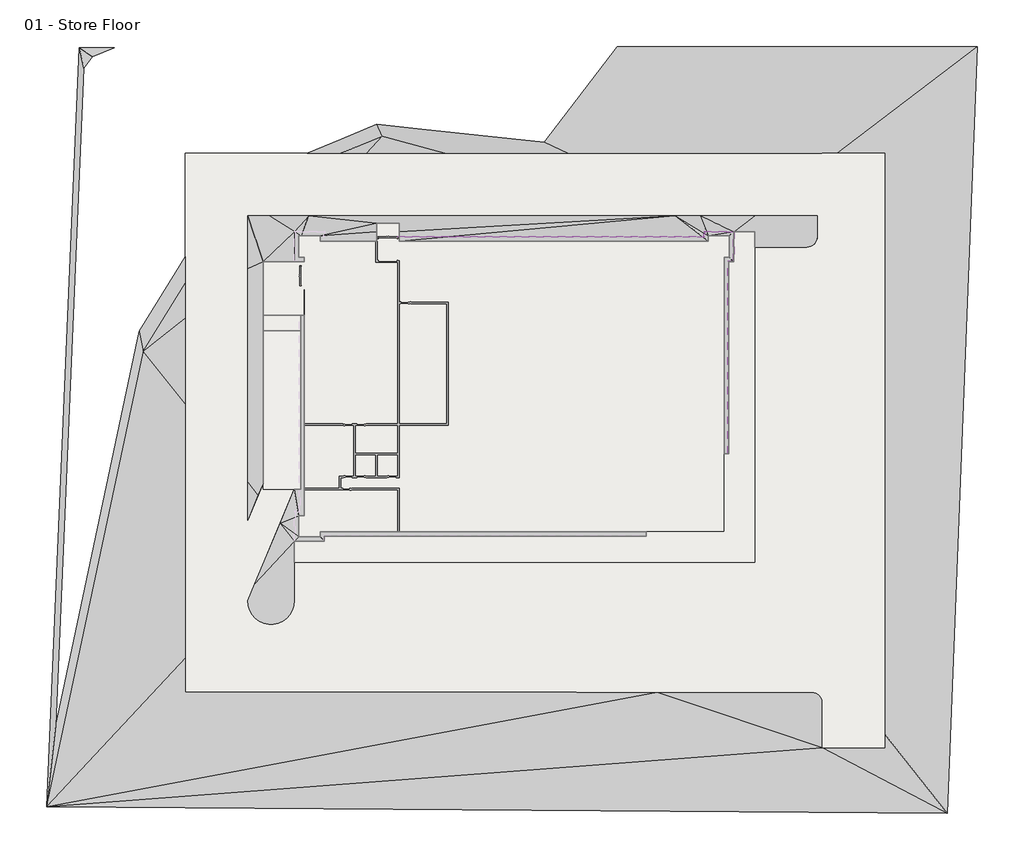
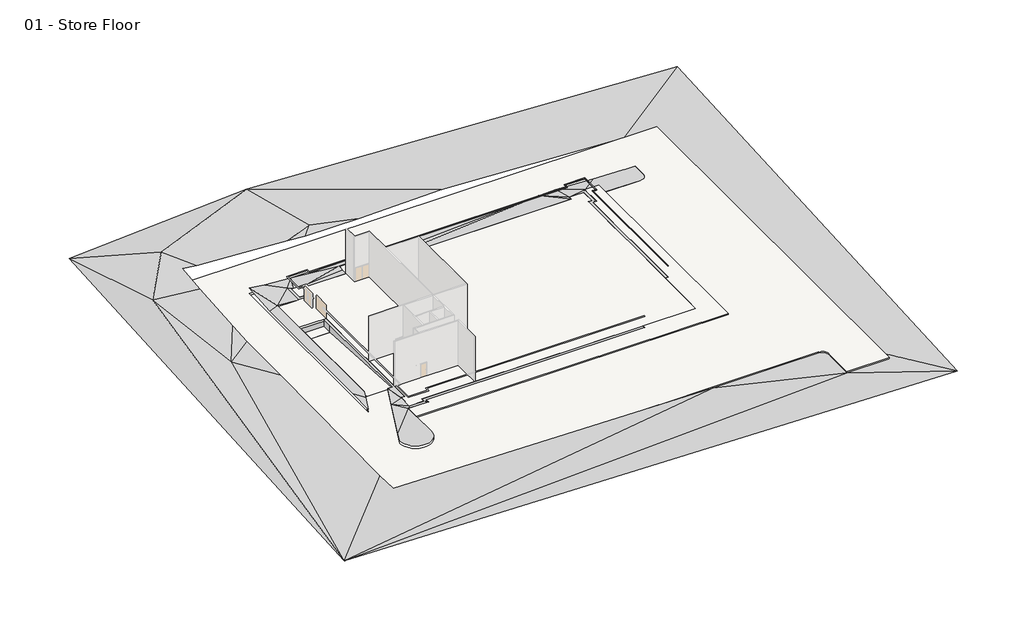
# One storey, part 2 of 2: 11 proxies, 5 slabs.
"""IFC4 building model written with IfcOpenShell, lengths in millimetres."""

from ifc_helpers import new_model, si_unit, point, frame, frame_2d, origin, place, context, project, spatial, polyline, circle_curve, trimmed, segment, composite_curve, outline, extrude, triangles, element, save

model = new_model("IFC4")

# Units and contexts
model_context = context("Model", 3, world=origin())
ifc_project = project(units=[si_unit("LENGTHUNIT", "METRE", prefix="MILLI")], contexts=[model_context])

# Site, building, storey
site = spatial("IfcSite", under=ifc_project)
building = spatial("IfcBuilding", under=site)
storey = spatial("IfcBuildingStorey", under=building, Name="01 - Store Floor", Elevation=0.0)

# Proxies
placement = place(None, origin())
element("IfcBuildingElementProxy", 1, Name="Reveals", at=placement, inside=storey, context=model_context, shape_type="SweptSolid", body=[
    extrude(outline(polyline([(-13012.4227721, 14268.0686943), (-13012.4227721, 14370.5686943), (16365.0272279, 14370.5686943), (16467.5272279, 14268.0686943), (-13012.4227721, 14268.0686943)])), frame((0.0, 0.0, 1675.0), z_axis=(0.0, 0.0, 1.0), x_axis=(1.0, 0.0, 0.0)), (0.0, 0.0, 1.0), 75.0),
    extrude(outline(polyline([(-20106.4727721, 14268.0686943), (-20003.9727721, 14370.5686943), (-14912.4227721, 14370.5686943), (-14912.4227721, 14268.0686943), (-20106.4727721, 14268.0686943)])), frame((0.0, 0.0, 1675.0), z_axis=(0.0, 0.0, 1.0), x_axis=(1.0, 0.0, 0.0)), (0.0, 0.0, 1.0), 75.0),
])
element("IfcBuildingElementProxy", 2, Name="Reveals", at=placement, inside=storey, context=model_context, shape_type="SweptSolid", body=[
    extrude(outline(polyline([(16467.5272279, 14268.0686943), (16365.0272279, 14370.5686943), (16365.0272279, 14870.5686943), (16467.5272279, 14768.0686943), (16467.5272279, 14268.0686943)])), frame((0.0, 0.0, 1675.0), z_axis=(0.0, 0.0, 1.0), x_axis=(1.0, 0.0, 0.0)), (0.0, 0.0, 1.0), 75.0),
])
element("IfcBuildingElementProxy", 3, Name="Reveals", at=placement, inside=storey, context=model_context, shape_type="SweptSolid", body=[
    extrude(outline(polyline([(16467.5272279, 14768.0686943), (16365.0272279, 14870.5686943), (19308.0272279, 14870.5686943), (19205.5272279, 14768.0686943), (16467.5272279, 14768.0686943)])), frame((0.0, 0.0, 1675.0), z_axis=(0.0, 0.0, 1.0), x_axis=(1.0, 0.0, 0.0)), (0.0, 0.0, 1.0), 75.0),
])
element("IfcBuildingElementProxy", 4, Name="Reveals", at=placement, inside=storey, context=model_context, shape_type="SweptSolid", body=[
    extrude(outline(polyline([(19205.5272279, 14768.0686943), (19308.0272279, 14870.5686943), (19308.0272279, 11927.5686943), (19205.5272279, 12030.0686943), (19205.5272279, 14768.0686943)])), frame((0.0, 0.0, 1675.0), z_axis=(0.0, 0.0, 1.0), x_axis=(1.0, 0.0, 0.0)), (0.0, 0.0, 1.0), 75.0),
])
element("IfcBuildingElementProxy", 5, Name="Reveals", at=placement, inside=storey, context=model_context, shape_type="SweptSolid", body=[
    extrude(outline(polyline([(19205.5272279, 12030.0686943), (19308.0272279, 11927.5686943), (18808.0272279, 11927.5686943), (18705.5272279, 12030.0686943), (19205.5272279, 12030.0686943)])), frame((0.0, 0.0, 1675.0), z_axis=(0.0, 0.0, 1.0), x_axis=(1.0, 0.0, 0.0)), (0.0, 0.0, 1.0), 75.0),
])
element("IfcBuildingElementProxy", 6, Name="Reveals", at=placement, inside=storey, context=model_context, shape_type="SweptSolid", body=[
    extrude(outline(polyline([(18705.5272279, 12030.0686943), (18808.0272279, 11927.5686943), (18808.0272279, -6481.9313057), (18705.5272279, -6481.9313057), (18705.5272279, 12030.0686943)])), frame((0.0, 0.0, 1675.0), z_axis=(0.0, 0.0, 1.0), x_axis=(1.0, 0.0, 0.0)), (0.0, 0.0, 1.0), 75.0),
])
element("IfcBuildingElementProxy", 7, Name="Building Element Proxy", at=placement, inside=storey, context=model_context, shape_type="Tessellation", body=[
    triangles([(-43566.3082031, 32462.523175, 1000.0000076), (-46716.2229126, -40393.2088623, 1000.0000076), (39777.6557373, -41004.7343262, -500.0000038), (42663.8237549, 32601.6611938, -500.0000038), (-18392.8342987, 32565.4122437, 2500.0000191), (33780.5264465, -34706.930365, -384.9401665), (27780.5275635, -34706.930365, -383.6411179), (27780.5275635, -30406.9323669, -305.9673343), (27731.5840393, -30097.9140198, -300.3747432), (27589.5438721, -29819.144989, -295.30841), (27368.3131897, -29597.9143066, -291.2642528), (27089.5441589, -29455.8741394, -288.6381413), (26780.5281372, -29406.9306152, -287.6871456), (11915.4122314, -29406.9306152, -284.4687919), (-33419.4717407, -29406.9306152, 509.2660807), (-33419.4717407, -26152.3013672, 432.8553014), (-33419.4717407, -1684.9523849, 719.9349804), (-33419.4717407, 6518.3399185, 720.4169277), (-33419.4717407, 9885.0384888, 1000.0000076), (-33419.4717407, 18055.2002563, 1642.8014694), (-33419.4717407, 22343.0687622, 2044.0540123), (-31378.0544861, 22343.0687622, 1780.8529266), (-25462.4923096, 22343.0687622, 1430.5636974), (-18450.5005463, 22343.0687622, 1000.0000076), (-16016.6502686, 22343.0687622, 817.2966974), (-8441.5899673, 22343.0687622, 817.7947048), (3306.7528107, 22343.0687622, 1051.3779762), (29175.0005859, 22343.0687622, -220.2242939), (33780.5264465, 22343.0687622, -317.0081938), (33780.5264465, 15117.0051819, -319.6062183), (33780.5264465, -33407.95849, -361.4759374), (26280.5260986, 13343.0692749, -162.6334778), (26589.5444458, 13392.0116364, -169.1097904), (26868.3134766, 13534.0518036, -174.9169577), (27089.5441589, 13755.2836487, -179.4865371), (27231.5843262, 14034.0515167, -182.3712447), (27280.5278503, 14343.0687012, -183.2886669), (27280.5278503, 16343.0687164, -182.5695974), (21285.7193481, 16343.0687164, -56.5903049), (16043.3172455, 16343.0687164, 201.1098175), (13662.4242004, 16343.0687164, 153.7723545), (-21518.9074402, 16343.0687164, 151.4593325), (-25294.1537476, 16343.0687164, 434.8579408), (-27419.4728577, 16343.0687164, 722.9589964), (-27419.4728577, 11264.0287354, 301.1768745), (-27419.4728577, -9240.2545898, 299.9721152), (-27419.4728577, -12884.300766, 257.215895), (-26417.4247192, -10502.0496643, 229.83499), (-25919.4737183, -9318.2271561, 195.0878195), (-25919.4737183, 5316.5097885, 195.9477053), (-25919.4737183, 6816.5095093, 196.0358358), (-25919.4737183, 11955.0691132, 196.3377614), (-22896.9000732, 11955.0691132, -14.9999997), (-21990.4716797, 11955.0691132, -14.9999997), (-21990.4716797, 12384.0685089, -14.9999997), (-22490.4737183, 12384.0685089, -14.9999997), (-22490.4737183, 14414.0690186, -14.9999997), (-22283.239856, 14414.0690186, -14.9999997), (-20460.4720459, 14414.0690186, -14.9999997), (-20460.4720459, 13914.0681427, -14.9999997), (-15030.2232697, 13914.0681427, -14.9999997), (-15030.2232697, 14838.4070709, -14.9999997), (-15030.2232697, 15634.0689697, 73.2489038), (-12830.2226715, 15634.0689697, 73.3935443), (-12830.2226715, 14837.1024994, -14.9999997), (-12830.2226715, 13914.0681427, -14.9999997), (16821.5267212, 13914.0681427, -14.9999997), (16821.5267212, 14414.0690186, -14.9999997), (18851.5272308, 14414.0690186, -14.9999997), (18851.5272308, 12384.0685089, -14.9999997), (18351.5275177, 12384.0685089, -14.9999997), (18351.5275177, -6481.9310944, -14.9999997), (18780.5269135, -6481.9310944, -14.9999997), (18780.5269135, 11955.0691132, -14.9999997), (19231.5447327, 11955.0691132, -14.9999997), (19280.5277893, 11955.0691132, -16.029345), (19280.5277893, 14818.0687775, -14.9999997), (19280.5277893, 14843.0684143, -14.0659235), (19313.3990387, 14843.0684143, -15.6818087), (21280.5266418, 14843.0684143, -57.0204839), (21280.5266418, 13343.0692749, -57.559786), (-22919.473114, -16906.9308105, 31.9598247), (-22919.473114, -14906.7308075, -14.9999997), (-20031.4726501, -14906.7308075, -15.6252635), (-20031.4726501, -14872.1166412, -14.9999997), (-20031.4726501, -14406.9310822, -14.9999997), (10855.5269257, -14406.9310822, -14.9999997), (10855.5269257, -13977.9316864, -14.9999997), (-20460.4720459, -13977.9316864, -14.9999997), (-20460.4720459, -14477.7314117, -14.9999997), (-22490.4737183, -14477.7314117, -14.9999997), (-22490.4737183, -12447.7309021, -14.9999997), (-21990.4716797, -12447.7309021, -14.9999997), (-21990.4716797, 6816.5095093, -14.9999997), (-22319.4725281, 6816.5095093, -14.9999997), (-22319.4725281, 5316.5097885, -14.9999997), (-22319.4725281, -9923.4907928, -14.9999997), (-22915.2849976, -9923.4907928, -14.9999997), (-22919.473114, -9923.4907928, -14.7072021), (-24289.7755188, -13181.2233398, 80.9126756), (-26734.0263245, -18992.1430664, 147.701713), (-27419.4728577, -20621.7110413, 197.9609908), (-27370.3037659, -21089.5127197, 208.0829929), (-27224.9498474, -21536.8691345, 216.040901), (-26989.7618774, -21944.2279907, 221.4869712), (-26675.0159729, -22293.7880493, 224.1831366), (-26294.471759, -22570.2688477, 224.0115809), (-25864.7607788, -22761.5897278, 220.9798074), (-25404.6609558, -22859.386084, 215.2203116), (-24934.2826904, -22859.386084, 206.9848041), (-24474.1851929, -22761.5897278, 196.6332376), (-24044.4718872, -22570.2688477, 184.6180007), (-23663.9299988, -22293.7880493, 171.4642251), (-23349.1840942, -21944.2279907, 157.746803), (-23113.9961243, -21536.8691345, 144.0652526), (-22968.6398804, -21089.5127197, 131.0175116), (-22919.473114, -20621.7110413, 119.1738304), (-34204.7703186, 26133.4374023, 2500.0000191), (-40234.7441162, 17825.4724182, 2500.0000191), (-14506.8505646, 23989.4473389, 1000.0000076), (-37420.7554138, 3353.5319321, 1000.0000076), (-22894.4723145, 14843.0684143, -14.9999997)], [[2, 15, 16], [121, 2, 16], [102, 108, 109], [102, 107, 108], [109, 110, 102], [103, 106, 107], [106, 103, 104], [102, 103, 107], [101, 102, 117], [104, 105, 106], [111, 102, 110], [46, 47, 48], [112, 113, 102], [113, 114, 102], [116, 102, 115], [117, 102, 116], [102, 114, 115], [117, 82, 101], [83, 100, 101], [92, 99, 100], [100, 83, 91], [101, 82, 83], [92, 98, 99], [97, 92, 93], [92, 97, 98], [84, 91, 83], [92, 100, 91], [111, 112, 102], [14, 15, 2], [121, 18, 19], [18, 121, 17], [121, 19, 119], [45, 51, 52], [49, 50, 46], [51, 45, 50], [121, 16, 17], [119, 21, 118], [21, 119, 20], [5, 1, 118], [118, 1, 119], [21, 22, 118], [1, 2, 119], [44, 52, 43], [20, 119, 19], [52, 44, 45], [118, 22, 23], [119, 2, 121], [45, 46, 50], [122, 52, 53], [97, 94, 96], [93, 94, 97], [94, 95, 96], [46, 48, 49], [53, 54, 56], [42, 43, 122], [57, 122, 53], [122, 57, 58], [43, 52, 122], [55, 56, 54], [58, 42, 122], [59, 42, 58], [56, 57, 53], [5, 118, 23], [89, 90, 86], [91, 84, 90], [85, 90, 84], [86, 88, 89], [85, 86, 90], [88, 86, 87], [74, 71, 72], [72, 73, 74], [74, 75, 70], [76, 70, 75], [74, 70, 71], [10, 8, 9], [7, 8, 13], [6, 3, 31], [3, 6, 7], [7, 14, 2], [8, 10, 11], [80, 81, 32], [33, 37, 32], [11, 12, 13], [37, 33, 34], [13, 8, 11], [35, 37, 34], [31, 3, 30], [7, 13, 14], [2, 3, 7], [76, 77, 70], [62, 59, 61], [61, 59, 60], [63, 59, 62], [64, 65, 41], [66, 41, 65], [41, 42, 64], [5, 23, 24], [120, 5, 24], [24, 25, 120], [63, 64, 42], [26, 27, 5], [26, 120, 25], [5, 120, 26], [5, 27, 4], [42, 59, 63], [68, 40, 41], [68, 69, 78], [78, 69, 77], [78, 79, 39], [38, 32, 37], [69, 70, 77], [37, 35, 36], [68, 78, 40], [78, 39, 40], [39, 79, 80], [39, 80, 32], [39, 32, 38], [29, 4, 28], [4, 29, 30], [30, 3, 4], [4, 27, 28], [68, 41, 67], [67, 41, 66]], closed=False),
])
element("IfcBuildingElementProxy", 8, Name="Building Element Proxy", at=placement, inside=storey, context=model_context, shape_type="Tessellation", body=[
    triangles([(10855.5269257, -13977.9316864, -304.9595106), (10855.5269257, -13977.9316864, -14.9999997), (-20460.4720459, -13977.9316864, -304.9595106), (-20460.4720459, -13977.9316864, -14.9999997), (-20460.4720459, -14477.7314117, -304.9595106), (-20460.4720459, -14477.7314117, -14.9999997), (-22490.4737183, -14477.7314117, -304.9595106), (-22490.4737183, -14477.7314117, -14.9999997), (-22490.4737183, -12447.7309021, -304.9595106), (-22490.4737183, -12447.7309021, -14.9999997), (-21990.4716797, -12447.7309021, -304.9595106), (-21990.4716797, -12447.7309021, -14.9999997), (-21990.4716797, 6816.5095093, -304.9595106), (-21990.4716797, 6816.5095093, -14.9999997), (-22319.4725281, 6816.5095093, -304.9595106), (-22319.4725281, 6816.5095093, -14.9999997)], [[1, 4, 2], [1, 3, 4], [3, 6, 4], [3, 5, 6], [5, 8, 6], [5, 7, 8], [7, 10, 8], [7, 9, 10], [9, 12, 10], [9, 11, 12], [11, 14, 12], [11, 13, 14], [13, 16, 14], [13, 15, 16]], closed=False),
    triangles([(-25919.4737183, 6816.5095093, -304.9595106), (-25919.4737183, 6816.5095093, 196.0358358), (-25919.4737183, 11955.0691132, -304.9595106), (-25919.4737183, 11955.0691132, 196.3377614), (-22896.9000732, 11955.0691132, -304.9595106), (-22896.9000732, 11955.0691132, -14.9999997), (-21990.4716797, 11955.0691132, -304.9595106), (-21990.4716797, 11955.0691132, -14.9999997), (-21990.4716797, 12384.0685089, -304.9595106), (-21990.4716797, 12384.0685089, -14.9999997), (-22490.4737183, 12384.0685089, -304.9595106), (-22490.4737183, 12384.0685089, -14.9999997), (-22490.4737183, 14414.0690186, -304.9595106), (-22490.4737183, 14414.0690186, -14.9999997), (-22283.239856, 14414.0690186, -304.9595106), (-22283.239856, 14414.0690186, -14.9999997), (-20460.4720459, 14414.0690186, -304.9595106), (-20460.4720459, 14414.0690186, -14.9999997), (-20460.4720459, 13914.0681427, -304.9595106), (-20460.4720459, 13914.0681427, -14.9999997), (-15030.2232697, 13914.0681427, -304.9595106), (-15030.2232697, 13914.0681427, -14.9999997), (-15030.2232697, 14838.4070709, -304.9595106), (-15030.2232697, 14838.4070709, -14.9999997), (-15030.2232697, 15634.0689697, -304.9595106), (-15030.2232697, 15634.0689697, 73.2489038), (-12830.2226715, 15634.0689697, -304.9595106), (-12830.2226715, 15634.0689697, 73.3935443), (-12830.2226715, 14837.1024994, -304.9595106), (-12830.2226715, 14837.1024994, -14.9999997), (-12830.2226715, 13914.0681427, -304.9595106), (-12830.2226715, 13914.0681427, -14.9999997), (16821.5267212, 13914.0681427, -304.9595106), (16821.5267212, 13914.0681427, -14.9999997), (16821.5267212, 14414.0690186, -304.9595106), (16821.5267212, 14414.0690186, -14.9999997), (18851.5272308, 14414.0690186, -304.9595106), (18851.5272308, 14414.0690186, -14.9999997), (18851.5272308, 12384.0685089, -304.9595106), (18851.5272308, 12384.0685089, -14.9999997), (18351.5275177, 12384.0685089, -304.9595106), (18351.5275177, 12384.0685089, -14.9999997), (18351.5275177, -6481.9310944, -304.9595106), (18351.5275177, -6481.9310944, -14.9999997)], [[1, 4, 2], [1, 3, 4], [3, 6, 4], [3, 5, 6], [5, 8, 6], [5, 7, 8], [7, 10, 8], [7, 9, 10], [9, 12, 10], [9, 11, 12], [11, 14, 12], [11, 13, 14], [13, 16, 14], [13, 15, 16], [15, 18, 16], [15, 17, 18], [17, 20, 18], [17, 19, 20], [19, 22, 20], [19, 21, 22], [21, 24, 22], [21, 23, 24], [23, 26, 24], [23, 25, 26], [25, 28, 26], [25, 27, 28], [27, 30, 28], [27, 29, 30], [29, 32, 30], [29, 31, 32], [31, 34, 32], [31, 33, 34], [33, 36, 34], [33, 35, 36], [35, 38, 36], [35, 37, 38], [37, 40, 38], [37, 39, 40], [39, 42, 40], [39, 41, 42], [41, 44, 42], [41, 43, 44]], closed=False),
    triangles([(-15030.2232697, 13914.0681427, -304.9595106), (-20460.4720459, 13914.0681427, -304.9595106), (-20460.4720459, 14414.0690186, -304.9595106), (-22490.4737183, 14414.0690186, -304.9595106), (-22490.4737183, 12384.0685089, -304.9595106), (-21990.4716797, 12384.0685089, -304.9595106), (-21990.4716797, 11955.0691132, -304.9595106), (-25919.4737183, 11955.0691132, -304.9595106), (-25919.4737183, 6816.5095093, -304.9595106), (-21990.4716797, 6816.5095093, -304.9595106), (-21990.4716797, -12447.7309021, -304.9595106), (-22490.4737183, -12447.7309021, -304.9595106), (-22490.4737183, -14477.7314117, -304.9595106), (-20460.4720459, -14477.7314117, -304.9595106), (-20460.4720459, -13977.9316864, -304.9595106), (10855.5269257, -13977.9316864, -304.9595106), (18351.5275177, -13977.9316864, -304.9595106), (18351.5275177, -6481.9310944, -304.9595106), (18351.5275177, 12384.0685089, -304.9595106), (18851.5272308, 12384.0685089, -304.9595106), (18851.5272308, 14414.0690186, -304.9595106), (16821.5267212, 14414.0690186, -304.9595106), (16821.5267212, 13914.0681427, -304.9595106), (-12830.2226715, 13914.0681427, -304.9595106), (-12830.2226715, 15634.0689697, -304.9595106), (-15030.2232697, 15634.0689697, -304.9595106)], [[13, 11, 12], [11, 13, 15], [11, 15, 10], [15, 13, 14], [1, 7, 10], [7, 8, 9], [2, 4, 6], [6, 4, 5], [3, 4, 2], [2, 6, 7], [9, 10, 7], [10, 15, 24], [24, 16, 18], [24, 1, 10], [18, 16, 17], [23, 24, 18], [23, 18, 19], [21, 19, 20], [2, 7, 1], [26, 1, 25], [22, 23, 21], [23, 19, 21], [25, 1, 24], [15, 16, 24]], closed=False),
])
element("IfcBuildingElementProxy", 9, Name="Building Element Proxy", at=placement, inside=storey, context=model_context, shape_type="Tessellation", body=[
    triangles([(10855.5269257, -13977.9316864, -304.9595106), (10855.5269257, -13977.9316864, -14.9999997), (10855.5269257, -14406.9310822, -304.9595106), (10855.5269257, -14406.9310822, -14.9999997), (-20031.4726501, -14406.9310822, -304.9595106), (-20031.4726501, -14406.9310822, -14.9999997), (-20031.4726501, -14872.1166412, -304.9595106), (-20031.4726501, -14872.1166412, -14.9999997), (-20031.4726501, -14906.7308075, -304.9595106), (-20031.4726501, -14906.7308075, -15.6252635), (-22919.473114, -14906.7308075, -304.9595106), (-22919.473114, -14906.7308075, -14.9999997), (-22919.473114, -16906.9308105, -304.9595106), (-22919.473114, -16906.9308105, 31.9598247)], [[1, 4, 2], [1, 3, 4], [3, 6, 4], [3, 5, 6], [5, 8, 6], [5, 7, 8], [7, 10, 8], [7, 9, 10], [9, 12, 10], [9, 11, 12], [11, 14, 12], [11, 13, 14]], closed=False),
    triangles([(18351.5275177, -6481.9310944, -304.9595106), (18351.5275177, -6481.9310944, -14.9999997), (18780.5269135, -6481.9310944, -304.9595106), (18780.5269135, -6481.9310944, -14.9999997), (18780.5269135, 11955.0691132, -304.9595106), (18780.5269135, 11955.0691132, -14.9999997), (19231.5447327, 11955.0691132, -304.9595106), (19231.5447327, 11955.0691132, -14.9999997), (19280.5277893, 11955.0691132, -304.9595106), (19280.5277893, 11955.0691132, -16.029345), (19280.5277893, 14818.0687775, -304.9595106), (19280.5277893, 14818.0687775, -14.9999997), (19280.5277893, 14843.0684143, -304.9595106), (19280.5277893, 14843.0684143, -14.0659235), (19313.3990387, 14843.0684143, -304.9595106), (19313.3990387, 14843.0684143, -15.6818087), (21280.5266418, 14843.0684143, -304.9595106), (21280.5266418, 14843.0684143, -57.0204839), (21280.5266418, 13343.0692749, -304.9595106), (21280.5266418, 13343.0692749, -57.559786)], [[1, 4, 2], [1, 3, 4], [3, 6, 4], [3, 5, 6], [5, 8, 6], [5, 7, 8], [7, 10, 8], [7, 9, 10], [9, 12, 10], [9, 11, 12], [11, 14, 12], [11, 13, 14], [13, 16, 14], [13, 15, 16], [15, 18, 16], [15, 17, 18], [17, 20, 18], [17, 19, 20]], closed=False),
    triangles([(21280.5266418, 14843.0684143, -304.9595106), (19280.5277893, 14843.0684143, -304.9595106), (19280.5277893, 11955.0691132, -304.9595106), (18780.5269135, 11955.0691132, -304.9595106), (18780.5269135, -6481.9310944, -304.9595106), (18351.5275177, -6481.9310944, -304.9595106), (18351.5275177, -13977.9316864, -304.9595106), (10855.5269257, -13977.9316864, -304.9595106), (10855.5269257, -14406.9310822, -304.9595106), (-20031.4726501, -14406.9310822, -304.9595106), (-20031.4726501, -14906.7308075, -304.9595106), (-22919.473114, -14906.7308075, -304.9595106), (-22919.473114, -16906.9308105, -304.9595106), (21280.5266418, -16906.9308105, -304.9595106)], [[13, 11, 12], [11, 13, 9], [7, 8, 9], [10, 11, 9], [13, 14, 9], [7, 14, 5], [14, 7, 9], [5, 14, 1], [3, 4, 5], [1, 2, 3], [3, 5, 1], [5, 6, 7]], closed=False),
])
element("IfcBuildingElementProxy", 10, Name="Building Element Proxy", at=placement, inside=storey, context=model_context, shape_type="Tessellation", body=[
    triangles([(-25919.4737183, 5316.5097885, -1369.9595478), (-25919.4737183, 5316.5097885, -1370.3489136), (-22902.4788025, 5316.5097885, -1369.9595478), (-22902.4788025, 5316.5097885, -1370.3489136), (-22319.4725281, 5316.5097885, -1369.9595478), (-22319.4725281, 5316.5097885, -1370.3489136)], [[1, 4, 2], [1, 3, 4], [3, 6, 4], [3, 5, 6]], closed=False),
    triangles([(-25919.4737183, 6816.5095093, -1369.9595478), (-25919.4737183, 6816.5095093, -304.9595106), (-22901.2184143, 6816.5095093, -1369.9595478), (-22901.2184143, 6816.5095093, -304.9595106), (-22319.4725281, 6816.5095093, -1369.9595478), (-22319.4725281, 6816.5095093, -304.9595106)], [[1, 4, 2], [1, 3, 4], [3, 6, 4], [3, 5, 6]], closed=False),
    triangles([(-22319.4725281, 5316.5097885, -1369.9595478), (-22319.4725281, 5316.5097885, -14.9999997), (-22319.4725281, 6816.5095093, -1369.9595478), (-22319.4725281, 6816.5095093, -14.9999997)], [[1, 4, 2], [1, 3, 4]], closed=False),
    triangles([(-25919.4737183, 6816.5095093, -1369.9595478), (-25919.4737183, 6816.5095093, 196.0358358), (-25919.4737183, 5316.5097885, -1369.9595478), (-25919.4737183, 5316.5097885, 195.9477053)], [[1, 4, 2], [1, 3, 4]], closed=False),
    triangles([(-25919.4737183, 6816.5095093, -1369.9595478), (-25919.4737183, 5316.5097885, -1369.9595478), (-22319.4725281, 5316.5097885, -1369.9595478), (-22319.4725281, 6816.5095093, -1369.9595478)], [[1, 2, 3], [3, 4, 1]], closed=False),
])
element("IfcBuildingElementProxy", 11, Name="Building Element Proxy", at=placement, inside=storey, context=model_context, shape_type="Tessellation", body=[
    triangles([(-22319.4725281, 5316.5097885, -1370.3489136), (-22319.4725281, 5316.5097885, -14.9999997), (-22319.4725281, -9923.4907928, -455.3488775), (-22319.4725281, -9923.4907928, -14.9999997), (-22915.2849976, -9923.4907928, -455.3488775), (-22915.2849976, -9923.4907928, -14.9999997), (-22919.473114, -9923.4907928, -455.3488775), (-22919.473114, -9923.4907928, -14.7072021)], [[1, 4, 2], [1, 3, 4], [3, 6, 4], [3, 5, 6], [5, 8, 6], [5, 7, 8]], closed=False),
    triangles([(-25919.4737183, 5316.5097885, -1370.3489136), (-25919.4737183, 5316.5097885, 195.9477053), (-25919.4737183, -9318.2271561, -491.6884835), (-25919.4737183, -9318.2271561, 195.0878195)], [[1, 4, 2], [1, 3, 4]], closed=False),
    triangles([(-25919.4737183, 5316.5097885, -1370.3489136), (-25919.4737183, -9923.4907928, -455.3488775), (-22319.4725281, -9923.4907928, -455.3488775), (-22319.4725281, 5316.5097885, -1370.3489136)], [[1, 2, 3], [3, 4, 1]], closed=False),
])

# Slabs
element("IfcSlab", 12, ObjectType="Pad 1", at=placement, inside=storey, context=model_context, shape_type="SweptSolid", body=[
    extrude(outline(polyline([(-15030.2227721, 13914.0686943), (-15030.2227721, 15634.0686943), (-12830.2227721, 15634.0686943), (-12830.2227721, 13914.0686943), (16821.5272279, 13914.0686943), (16821.5272279, 14414.0686943), (18851.5272279, 14414.0686943), (18851.5272279, 12384.0686943), (18351.5272279, 12384.0686943), (18351.5272279, -6481.9313057), (18351.5272279, -13977.9313057), (10855.5272279, -13977.9313057), (-20460.4727721, -13977.9313057), (-20460.4727721, -14477.7313057), (-22490.4727721, -14477.7313057), (-22490.4727721, -12447.7313057), (-21990.4727721, -12447.7313057), (-21990.4727721, 6816.509692), (-25919.4727721, 6816.509692), (-25919.4727721, 11955.0686943), (-21990.4727721, 11955.0686943), (-21990.4727721, 12384.0686943), (-22490.4727721, 12384.0686943), (-22490.4727721, 14414.0686943), (-20460.4727721, 14414.0686943), (-20460.4727721, 13914.0686943), (-15030.2227721, 13914.0686943)])), frame((0.0, 0.0, -304.8), z_axis=(0.0, 0.0, 1.0), x_axis=(1.0, 0.0, 0.0)), (0.0, 0.0, 1.0), 304.8),
])
element("IfcSlab", 13, ObjectType="Pad 1", at=placement, inside=storey, context=model_context, shape_type="SweptSolid", body=[
    extrude(outline(polyline([(21280.5272279, 14843.0686943), (21280.5272279, -16906.9313057), (-22919.4727721, -16906.9313057), (-22919.4727721, -14906.7313057), (-20031.4727721, -14906.7313057), (-20031.4727721, -14406.9313057), (10855.5272279, -14406.9313057), (10855.5272279, -13977.9313057), (18351.5272279, -13977.9313057), (18351.5272279, -6481.9313057), (18780.5272279, -6481.9313057), (18780.5272279, 11955.0686943), (19280.5272279, 11955.0686943), (19280.5272279, 14843.0686943), (21280.5272279, 14843.0686943)])), frame((0.0, 0.0, -304.8), z_axis=(0.0, 0.0, 1.0), x_axis=(1.0, 0.0, 0.0)), (0.0, 0.0, 1.0), 304.8),
])
element("IfcSlab", 14, ObjectType="Pad 1", at=placement, inside=storey, context=model_context, shape_type="SweptSolid", body=[
    extrude(outline(composite_curve([segment(polyline([(33780.5272279, -34706.9313057), (27780.5272279, -34706.9313057), (27780.5272279, -30406.9313057)]), True, "CONTINUOUS"), segment(trimmed(circle_curve(frame_2d((26780.5272279, -30406.9313057)), 1000.0), [point((27780.5272279, -30406.9313057))], [point((26780.5272279, -29406.9313057))], True, "CARTESIAN"), True, "CONTINUOUS"), segment(polyline([(26780.5272279, -29406.9313057), (-33419.4727721, -29406.9313057), (-33419.4727721, 22343.0686943), (33780.5272279, 22343.0686943), (33780.5272279, -34706.9313057)]), True, "CONTINUOUS")], self_intersect=False), holes=[composite_curve([segment(trimmed(circle_curve(frame_2d((26280.5272279, 14343.0686943)), 1000.0), [point((26280.5272279, 13343.0686943))], [point((27280.5272279, 14343.0686943))], True, "CARTESIAN"), True, "CONTINUOUS"), segment(polyline([(27280.5272279, 14343.0686943), (27280.5272279, 16343.0686943), (-27419.4727721, 16343.0686943), (-27419.4727721, -12884.3008421), (-25919.4727721, -9318.2269035), (-25919.4727721, -9923.490308), (-22919.4727721, -9923.490308), (-27419.4727721, -20621.7121237)]), True, "CONTINUOUS"), segment(trimmed(circle_curve(frame_2d((-25169.4727721, -20621.7121237)), 2250.0), [point((-27419.4727721, -20621.7121237))], [point((-22919.4727721, -20621.7121237))], True, "CARTESIAN"), True, "CONTINUOUS"), segment(polyline([(-22919.4727721, -20621.7121237), (-22919.4727721, -16906.9313057), (21280.5272279, -16906.9313057), (21280.5272279, 13343.0686943), (26280.5272279, 13343.0686943)]), True, "CONTINUOUS")], self_intersect=False)]), frame((0.0, 0.0, -454.8), z_axis=(0.0, 0.0, 1.0), x_axis=(1.0, 0.0, 0.0)), (0.0, 0.0, 1.0), 304.8),
])
element("IfcSlab", 15, ObjectType="Pad 1", at=placement, inside=storey, context=model_context, shape_type="SweptSolid", body=[
    extrude(outline(polyline([(-25919.4727721, 6816.509692), (-22319.4727721, 6816.509692), (-22319.4727721, 5316.509692), (-25919.4727721, 5316.509692), (-25919.4727721, 6816.509692)])), frame((0.0, 0.0, -1369.8), z_axis=(0.0, 0.0, 1.0), x_axis=(1.0, 0.0, 0.0)), (0.0, 0.0, 1.0), 304.8),
])
element("IfcSlab", 16, ObjectType="Pad 1", at=placement, inside=storey, context=model_context, shape_type="SweptSolid", body=[
    extrude(outline(polyline([(5316.509692, -1370.3488661), (-9923.490308, -455.3488661), (-9923.490308, -150.0), (5316.509692, -1065.0), (5316.509692, -1370.3488661)])), frame((-25919.4727721, 0.0, 0.0), z_axis=(1.0, 0.0, 0.0), x_axis=(0.0, 1.0, 0.0)), (0.0, 0.0, 1.0), 3600.0),
])

save(model, "model.ifc")
